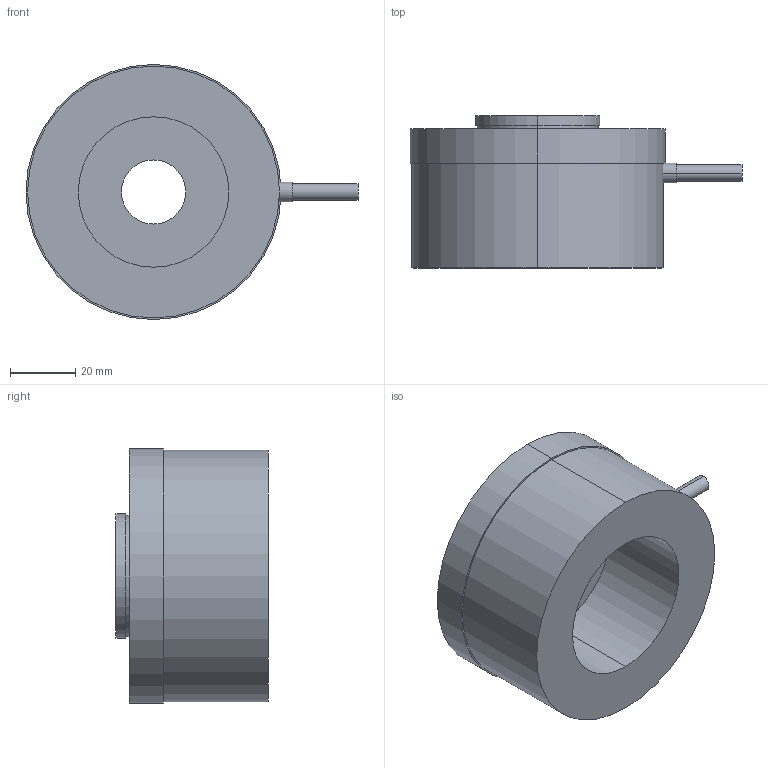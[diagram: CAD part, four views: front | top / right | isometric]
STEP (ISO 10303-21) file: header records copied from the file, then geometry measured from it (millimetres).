
FILE_DESCRIPTION (( 'STEP AP203' ), '1' );
FILE_NAME ('P76.Z80标准（上M38×0.75下RMS螺纹）三维图-2024.08.12.STEP', '2024-08-12T02:45:29', ( '微软用户' ), ( '微软中国' ), 'SwSTEP 2.0', 'SolidWorks 2016', '' );
FILE_SCHEMA (( 'CONFIG_CONTROL_DESIGN' ));
Length unit declared in the file: millimetre
Products named in the file (1): P76.Z80标准（上M38×0.75下RMS螺纹）三维图-2024.08.12
Bounding box: 101.5 x 46.5 x 78 mm (x, y, z)
Volume: 141776.2 mm3; surface area: 28091.8 mm2
Topology: 2 solids, 2 shells, 31 faces, 60 edges, 40 vertices
Faces by surface type: cylinder 20, plane 11
Entity records: 893 total; most frequent: DIRECTION 164, CARTESIAN_POINT 132, ORIENTED_EDGE 120, AXIS2_PLACEMENT_3D 72, EDGE_CURVE 60, CIRCLE 40, EDGE_LOOP 40, VERTEX_POINT 40
